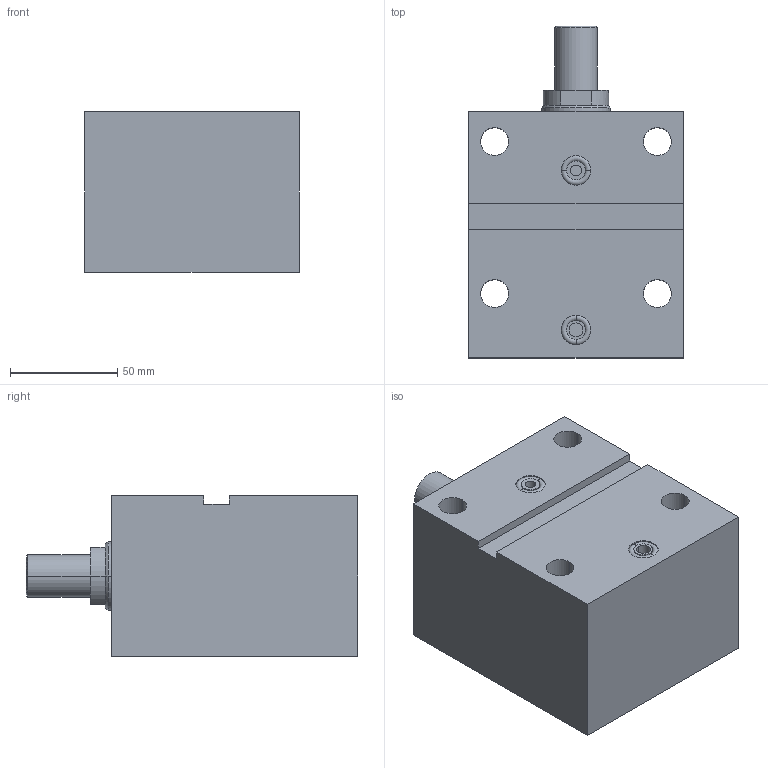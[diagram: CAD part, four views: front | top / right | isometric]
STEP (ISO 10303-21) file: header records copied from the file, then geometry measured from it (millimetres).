
FILE_DESCRIPTION (( 'STEP AP203' ), '1' );
FILE_NAME ('GERMA_Blockzylinder_603-050-050-A.STEP', '2016-01-24T17:20:39', ( '' ), ( '' ), 'SwSTEP 2.0', 'SolidWorks 2015', '' );
FILE_SCHEMA (( 'CONFIG_CONTROL_DESIGN' ));
Length unit declared in the file: millimetre
Products named in the file (3): Kolben 60x-050_Kolben DU.50-Hub50-AG; GERMA_Blockzylinder_603-050-050-A; GH-600-050_GH-603-050-050
Assembly tree (2 placements, depth 2):
  GERMA_Blockzylinder_603-050-050-A
    GH-600-050_GH-603-050-050
    Kolben 60x-050_Kolben DU.50-Hub50-AG
Bounding box: 100 x 155 x 75 mm (x, y, z)
Volume: 775830.9 mm3; surface area: 102798.7 mm2
Topology: 2 solids, 2 shells, 81 faces, 178 edges, 109 vertices
Faces by surface type: cylinder 39, plane 26, cone 12, torus 4
Entity records: 2534 total; most frequent: DIRECTION 439, CARTESIAN_POINT 369, ORIENTED_EDGE 348, AXIS2_PLACEMENT_3D 179, EDGE_CURVE 174, VERTEX_POINT 109, EDGE_LOOP 101, CIRCLE 93
